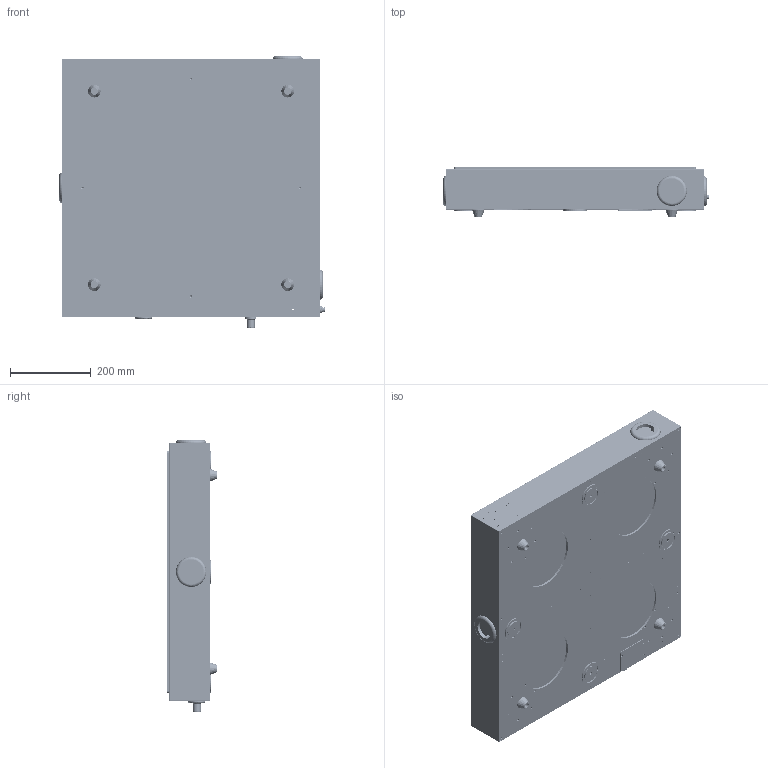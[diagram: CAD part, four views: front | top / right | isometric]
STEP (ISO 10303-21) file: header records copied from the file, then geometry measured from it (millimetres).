
FILE_DESCRIPTION (( 'STEP AP203' ), '1' );
FILE_NAME ('GPD-0606.STEP', '2018-04-24T01:37:03', ( '' ), ( '' ), 'SwSTEP 2.0', 'SolidWorks 2016', '' );
FILE_SCHEMA (( 'CONFIG_CONTROL_DESIGN' ));
Length unit declared in the file: millimetre
Products named in the file (1): GPD-0606
Bounding box: 659 x 123.5 x 674.3 mm (x, y, z)
Volume: 19352602.6 mm3; surface area: 2436137.9 mm2
Topology: 20 solids, 20 shells, 4457 faces, 11554 edges, 6835 vertices
Faces by surface type: cylinder 1485, plane 1109, cone 1059, bspline 765, torus 35, sphere 4
Entity records: 134943 total; most frequent: CARTESIAN_POINT 33843, ORIENTED_EDGE 21124, DIRECTION 19490, EDGE_CURVE 10562, AXIS2_PLACEMENT_3D 6840, VERTEX_POINT 6835, LINE 5810, VECTOR 5810
